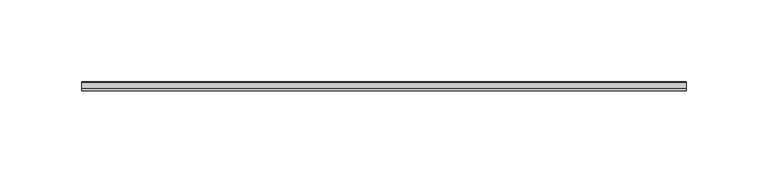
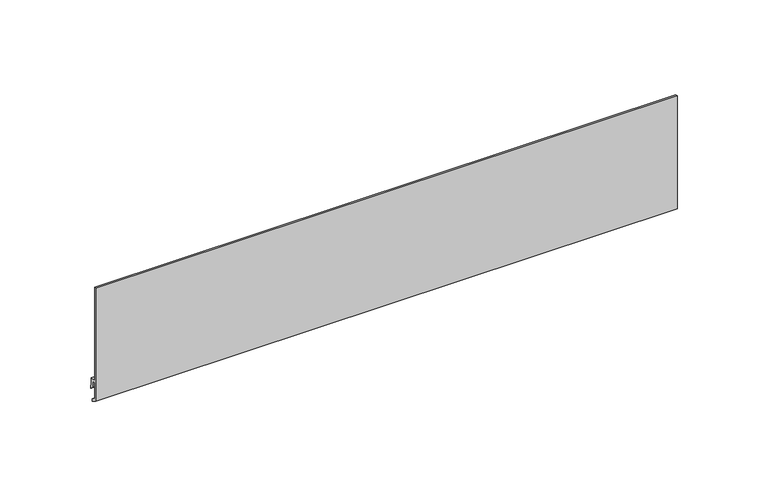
"""IFC4 building model written with IfcOpenShell, lengths in millimetres: plate geometry, FastPlank_P44V-V-Notch-4″-Plank-Horizontal : P44V-V-Notch-4″-Plank-Horizontal."""

from ifc_helpers import new_model, si_unit, frame, origin, place, context, project, spatial, polyline, outline, extrude, source, transform, mapped, element, save


def plate_11fa783c(model_context):
    return source(origin(), model_context, "Body", "SweptSolid", [
        extrude(outline(polyline([(-18.8745946, 2.3957023), (-18.8745946, 78.3636711), (-17.5745972, 78.3636711), (-17.5745972, 15.4863039), (-14.0246043, 15.4863039), (-14.0246043, 10.5877112), (-13.3162936, 9.8794005), (-13.3162936, 7.7608499), (-15.5246013, 9.9691576), (-15.5246013, 13.9827581), (-17.3745976, 13.9827581), (-17.3745976, 3.2617795), (-14.7246029, 1.7319938), (-14.7246029, 0.0), (-18.8745946, 2.3957023)])), frame((-184.7615925, 0.0, 0.0), z_axis=(1.0, 0.0, 0.0), x_axis=(0.0, 1.0, 0.0)), (0.0, 0.0, 1.0), 369.5231851),
    ])


if __name__ == "__main__":
    model = new_model("IFC4")
    model_context = context("Model", 3, world=origin())
    ifc_project = project(units=[si_unit("LENGTHUNIT", "METRE", prefix="MILLI")], contexts=[model_context])
    site = spatial("IfcSite", under=ifc_project)
    building = spatial("IfcBuilding", under=site)
    placement = place(None, origin())
    plate_shape = plate_11fa783c(model_context)
    element("IfcPlate", 1, ObjectType="FastPlank_P44V-V-Notch-4″-Plank-Horizontal : P44V-V-Notch-4″-Plank-Horizontal", at=placement, inside=building, context=model_context, shape_type="MappedRepresentation", body=[
        mapped(plate_shape, transform((0.0, 0.0, 0.0), x_axis=(1.0, 0.0, 0.0), y_axis=(0.0, 1.0, 0.0), z_axis=(0.0, 0.0, 1.0))),
    ])
    save(model, "model.ifc")
